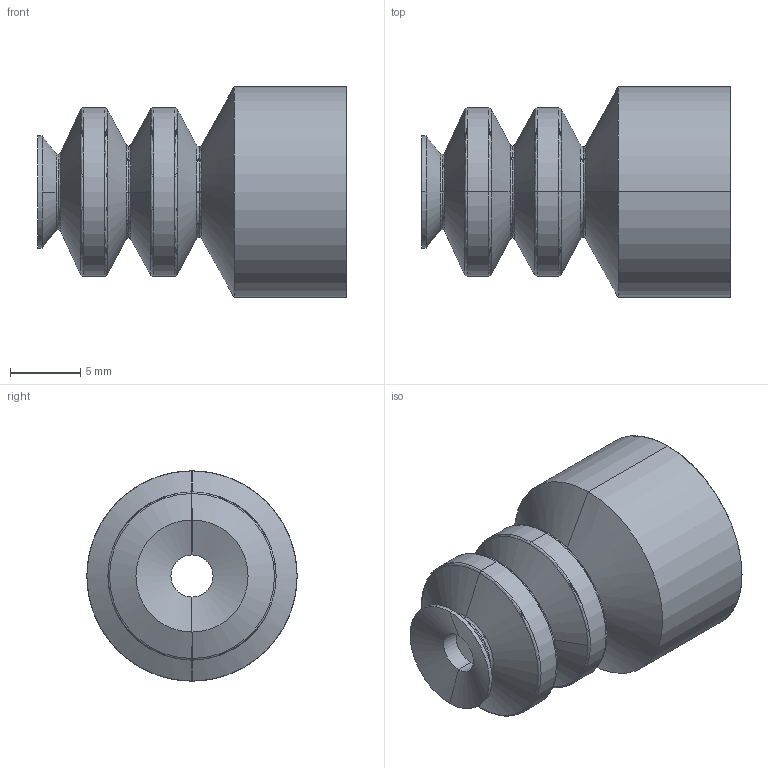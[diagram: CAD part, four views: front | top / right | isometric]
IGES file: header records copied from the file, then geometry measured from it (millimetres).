
Start section: SolidWorks IGES file using analytic representation for surfaces
Global section: file name: C:\Documents and Settings\CAD53\デスクトップ\現在データがないと思われるデータ\IGESデータ\196402.IGS; native system: SolidWorks 2006 by SolidWorks Corporation; preprocessor: SolidWorks 2006 by SolidWorks Corporation; author: CAD53; date: 071019.105024; units: millimetre
Bounding box: 22 x 15 x 15 mm (x, y, z)
Surface area: 2079.3 mm2 (no closed solid volume)
Topology: 0 solids, 0 shells, 74 faces, 584 edges, 584 vertices
Faces by surface type: revolution 48, bspline 26
